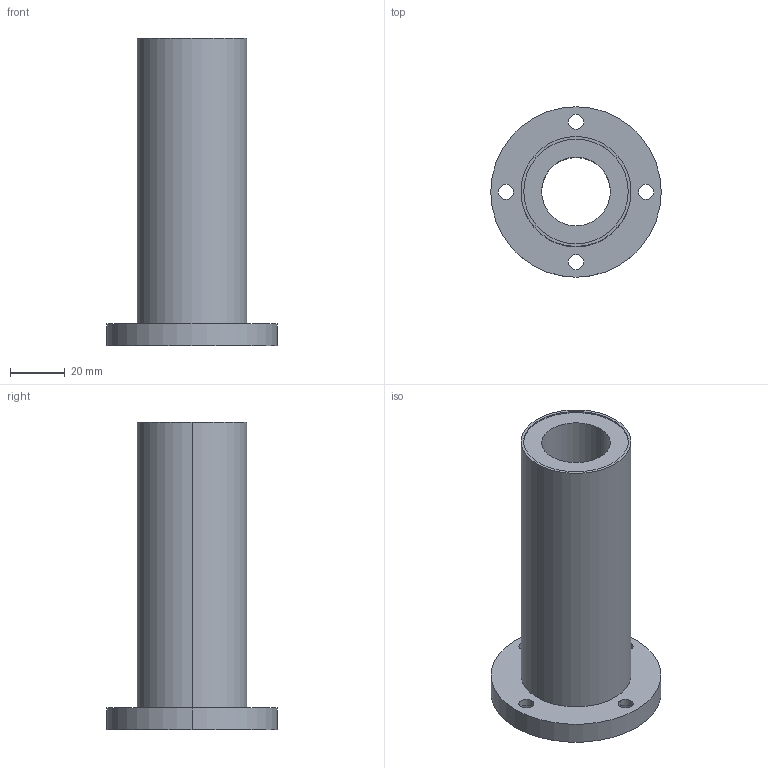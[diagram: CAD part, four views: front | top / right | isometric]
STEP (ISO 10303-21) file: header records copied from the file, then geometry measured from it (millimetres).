
FILE_DESCRIPTION((''),'2;1');
FILE_NAME('C:\Documents and Settings\ｿﾀﾀ蠑ｷ1\ｹﾙﾅﾁ ﾈｭｸ饅\ｺﾎﾇｰﾆﾄﾀﾏ\ﾁｦﾇｰ\LMF__LUU\LMF25LUU.stp','2005-06-15T09:43:09',('ｿﾀﾀ蠑ｷ1'),(''),'Autodesk Inventor 9','Autodesk Inventor 9','');
FILE_SCHEMA(('AUTOMOTIVE_DESIGN { 1 0 10303 214 1 1 1 1 }'));
Length unit declared in the file: millimetre
Products named in the file (1): LMF__
Bounding box: 62 x 62 x 112 mm (x, y, z)
Volume: 97342.5 mm3; surface area: 29161.2 mm2
Topology: 1 solids, 1 shells, 38 faces, 84 edges, 56 vertices
Faces by surface type: cylinder 28, plane 10
Entity records: 1127 total; most frequent: DIRECTION 218, CARTESIAN_POINT 179, ORIENTED_EDGE 168, AXIS2_PLACEMENT_3D 95, EDGE_CURVE 84, VERTEX_POINT 56, CIRCLE 56, EDGE_LOOP 56
